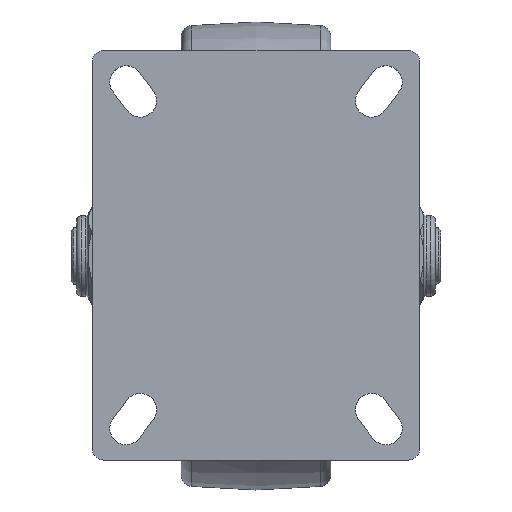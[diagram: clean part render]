
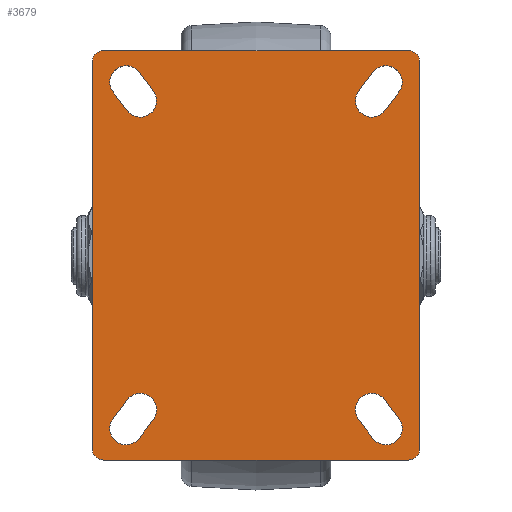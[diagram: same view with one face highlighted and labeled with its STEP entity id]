
A CAD part, top view. The second image highlights one B-rep face of the part: STEP entity #3679.
In plain terms, the highlighted planar face has unit normal (0, 0, 1).
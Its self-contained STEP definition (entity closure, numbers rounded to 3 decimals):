
#3057=CARTESIAN_POINT('',(-775.501,-300.79,109.943));
#3058=VERTEX_POINT('',#3057);
#3059=CARTESIAN_POINT('',(-905.501,-300.79,109.943));
#3060=VERTEX_POINT('',#3059);
#3061=CARTESIAN_POINT('',(-775.501,-300.79,109.943));
#3062=DIRECTION('',(-1.0,0.0,0.0));
#3063=VECTOR('',#3062,130.);
#3064=LINE('',#3061,#3063);
#3065=EDGE_CURVE('',#3058,#3060,#3064,.T.);
#3088=CARTESIAN_POINT('',(-910.501,-295.79,109.943));
#3089=VERTEX_POINT('',#3088);
#3090=CARTESIAN_POINT('',(-905.501,-295.79,109.943));
#3091=DIRECTION('',(0.0,0.0,-1.0));
#3092=DIRECTION('',(1.0,0.0,0.0));
#3093=AXIS2_PLACEMENT_3D('',#3090,#3091,#3092);
#3094=CIRCLE('',#3093,5.0);
#3095=EDGE_CURVE('',#3060,#3089,#3094,.T.);
#3113=CARTESIAN_POINT('',(-910.501,-130.79,109.943));
#3114=VERTEX_POINT('',#3113);
#3115=CARTESIAN_POINT('',(-910.501,-295.79,109.943));
#3116=DIRECTION('',(0.0,1.0,0.0));
#3117=VECTOR('',#3116,165.);
#3118=LINE('',#3115,#3117);
#3119=EDGE_CURVE('',#3089,#3114,#3118,.T.);
#3137=CARTESIAN_POINT('',(-905.501,-125.79,109.943));
#3138=VERTEX_POINT('',#3137);
#3139=CARTESIAN_POINT('',(-905.501,-130.79,109.943));
#3140=DIRECTION('',(0.0,0.0,-1.0));
#3141=DIRECTION('',(1.0,0.0,0.0));
#3142=AXIS2_PLACEMENT_3D('',#3139,#3140,#3141);
#3143=CIRCLE('',#3142,5.0);
#3144=EDGE_CURVE('',#3114,#3138,#3143,.T.);
#3162=CARTESIAN_POINT('',(-775.501,-125.79,109.943));
#3163=VERTEX_POINT('',#3162);
#3164=CARTESIAN_POINT('',(-905.501,-125.79,109.943));
#3165=DIRECTION('',(1.0,0.0,0.0));
#3166=VECTOR('',#3165,130.0);
#3167=LINE('',#3164,#3166);
#3168=EDGE_CURVE('',#3138,#3163,#3167,.T.);
#3186=CARTESIAN_POINT('',(-770.501,-130.79,109.943));
#3187=VERTEX_POINT('',#3186);
#3188=CARTESIAN_POINT('',(-775.501,-130.79,109.943));
#3189=DIRECTION('',(0.0,0.0,-1.0));
#3190=DIRECTION('',(1.0,0.0,0.0));
#3191=AXIS2_PLACEMENT_3D('',#3188,#3189,#3190);
#3192=CIRCLE('',#3191,5.0);
#3193=EDGE_CURVE('',#3163,#3187,#3192,.T.);
#3211=CARTESIAN_POINT('',(-770.501,-295.79,109.943));
#3212=VERTEX_POINT('',#3211);
#3213=CARTESIAN_POINT('',(-770.501,-130.79,109.943));
#3214=DIRECTION('',(0.0,-1.0,0.0));
#3215=VECTOR('',#3214,165.);
#3216=LINE('',#3213,#3215);
#3217=EDGE_CURVE('',#3187,#3212,#3216,.T.);
#3235=CARTESIAN_POINT('',(-775.501,-295.79,109.943));
#3236=DIRECTION('',(0.0,0.0,-1.0));
#3237=DIRECTION('',(1.0,0.0,0.0));
#3238=AXIS2_PLACEMENT_3D('',#3235,#3236,#3237);
#3239=CIRCLE('',#3238,5.0);
#3240=EDGE_CURVE('',#3212,#3058,#3239,.T.);
#3253=CARTESIAN_POINT('',(-901.601,-283.09,109.943));
#3254=VERTEX_POINT('',#3253);
#3255=CARTESIAN_POINT('',(-890.401,-291.49,109.943));
#3256=VERTEX_POINT('',#3255);
#3257=CARTESIAN_POINT('',(-896.001,-287.29,109.943));
#3258=DIRECTION('',(0.0,0.0,1.0));
#3259=DIRECTION('',(1.0,0.0,0.0));
#3260=AXIS2_PLACEMENT_3D('',#3257,#3258,#3259);
#3261=CIRCLE('',#3260,7.);
#3262=EDGE_CURVE('',#3254,#3256,#3261,.T.);
#3285=CARTESIAN_POINT('',(-884.401,-283.49,109.943));
#3286=VERTEX_POINT('',#3285);
#3287=CARTESIAN_POINT('',(-890.401,-291.49,109.943));
#3288=DIRECTION('',(0.6,0.8,0.0));
#3289=VECTOR('',#3288,10.);
#3290=LINE('',#3287,#3289);
#3291=EDGE_CURVE('',#3256,#3286,#3290,.T.);
#3309=CARTESIAN_POINT('',(-895.601,-275.09,109.943));
#3310=VERTEX_POINT('',#3309);
#3311=CARTESIAN_POINT('',(-890.001,-279.29,109.943));
#3312=DIRECTION('',(0.0,0.0,1.0));
#3313=DIRECTION('',(1.0,0.0,0.0));
#3314=AXIS2_PLACEMENT_3D('',#3311,#3312,#3313);
#3315=CIRCLE('',#3314,7.);
#3316=EDGE_CURVE('',#3286,#3310,#3315,.T.);
#3334=CARTESIAN_POINT('',(-895.601,-275.09,109.943));
#3335=DIRECTION('',(-0.6,-0.8,0.0));
#3336=VECTOR('',#3335,10.);
#3337=LINE('',#3334,#3336);
#3338=EDGE_CURVE('',#3310,#3254,#3337,.T.);
#3351=CARTESIAN_POINT('',(-790.601,-291.49,109.943));
#3352=VERTEX_POINT('',#3351);
#3353=CARTESIAN_POINT('',(-779.401,-283.09,109.943));
#3354=VERTEX_POINT('',#3353);
#3355=CARTESIAN_POINT('',(-785.001,-287.29,109.943));
#3356=DIRECTION('',(0.0,0.0,1.0));
#3357=DIRECTION('',(1.0,0.0,0.0));
#3358=AXIS2_PLACEMENT_3D('',#3355,#3356,#3357);
#3359=CIRCLE('',#3358,7.);
#3360=EDGE_CURVE('',#3352,#3354,#3359,.T.);
#3383=CARTESIAN_POINT('',(-785.401,-275.09,109.943));
#3384=VERTEX_POINT('',#3383);
#3385=CARTESIAN_POINT('',(-779.401,-283.09,109.943));
#3386=DIRECTION('',(-0.6,0.8,0.0));
#3387=VECTOR('',#3386,10.);
#3388=LINE('',#3385,#3387);
#3389=EDGE_CURVE('',#3354,#3384,#3388,.T.);
#3407=CARTESIAN_POINT('',(-796.601,-283.49,109.943));
#3408=VERTEX_POINT('',#3407);
#3409=CARTESIAN_POINT('',(-791.001,-279.29,109.943));
#3410=DIRECTION('',(0.0,0.0,1.0));
#3411=DIRECTION('',(1.0,0.0,0.0));
#3412=AXIS2_PLACEMENT_3D('',#3409,#3410,#3411);
#3413=CIRCLE('',#3412,7.);
#3414=EDGE_CURVE('',#3384,#3408,#3413,.T.);
#3432=CARTESIAN_POINT('',(-796.601,-283.49,109.943));
#3433=DIRECTION('',(0.6,-0.8,0.0));
#3434=VECTOR('',#3433,10.);
#3435=LINE('',#3432,#3434);
#3436=EDGE_CURVE('',#3408,#3352,#3435,.T.);
#3449=CARTESIAN_POINT('',(-785.401,-151.49,109.943));
#3450=VERTEX_POINT('',#3449);
#3451=CARTESIAN_POINT('',(-779.401,-143.49,109.943));
#3452=VERTEX_POINT('',#3451);
#3453=CARTESIAN_POINT('',(-785.401,-151.49,109.943));
#3454=DIRECTION('',(0.6,0.8,0.0));
#3455=VECTOR('',#3454,10.);
#3456=LINE('',#3453,#3455);
#3457=EDGE_CURVE('',#3450,#3452,#3456,.T.);
#3480=CARTESIAN_POINT('',(-790.601,-135.09,109.943));
#3481=VERTEX_POINT('',#3480);
#3482=CARTESIAN_POINT('',(-785.001,-139.29,109.943));
#3483=DIRECTION('',(0.0,0.0,1.0));
#3484=DIRECTION('',(1.0,0.0,0.0));
#3485=AXIS2_PLACEMENT_3D('',#3482,#3483,#3484);
#3486=CIRCLE('',#3485,7.);
#3487=EDGE_CURVE('',#3452,#3481,#3486,.T.);
#3505=CARTESIAN_POINT('',(-796.601,-143.09,109.943));
#3506=VERTEX_POINT('',#3505);
#3507=CARTESIAN_POINT('',(-790.601,-135.09,109.943));
#3508=DIRECTION('',(-0.6,-0.8,0.0));
#3509=VECTOR('',#3508,10.0);
#3510=LINE('',#3507,#3509);
#3511=EDGE_CURVE('',#3481,#3506,#3510,.T.);
#3529=CARTESIAN_POINT('',(-791.001,-147.29,109.943));
#3530=DIRECTION('',(0.0,0.0,1.0));
#3531=DIRECTION('',(1.0,0.0,0.0));
#3532=AXIS2_PLACEMENT_3D('',#3529,#3530,#3531);
#3533=CIRCLE('',#3532,7.);
#3534=EDGE_CURVE('',#3506,#3450,#3533,.T.);
#3547=CARTESIAN_POINT('',(-890.401,-135.09,109.943));
#3548=VERTEX_POINT('',#3547);
#3549=CARTESIAN_POINT('',(-901.601,-143.49,109.943));
#3550=VERTEX_POINT('',#3549);
#3551=CARTESIAN_POINT('',(-896.001,-139.29,109.943));
#3552=DIRECTION('',(0.0,0.0,1.0));
#3553=DIRECTION('',(1.0,0.0,0.0));
#3554=AXIS2_PLACEMENT_3D('',#3551,#3552,#3553);
#3555=CIRCLE('',#3554,7.);
#3556=EDGE_CURVE('',#3548,#3550,#3555,.T.);
#3579=CARTESIAN_POINT('',(-895.601,-151.49,109.943));
#3580=VERTEX_POINT('',#3579);
#3581=CARTESIAN_POINT('',(-901.601,-143.49,109.943));
#3582=DIRECTION('',(0.6,-0.8,0.0));
#3583=VECTOR('',#3582,10.);
#3584=LINE('',#3581,#3583);
#3585=EDGE_CURVE('',#3550,#3580,#3584,.T.);
#3603=CARTESIAN_POINT('',(-884.401,-143.09,109.943));
#3604=VERTEX_POINT('',#3603);
#3605=CARTESIAN_POINT('',(-890.001,-147.29,109.943));
#3606=DIRECTION('',(0.0,0.0,1.0));
#3607=DIRECTION('',(1.0,0.0,0.0));
#3608=AXIS2_PLACEMENT_3D('',#3605,#3606,#3607);
#3609=CIRCLE('',#3608,7.);
#3610=EDGE_CURVE('',#3580,#3604,#3609,.T.);
#3628=CARTESIAN_POINT('',(-884.401,-143.09,109.943));
#3629=DIRECTION('',(-0.6,0.8,0.0));
#3630=VECTOR('',#3629,10.);
#3631=LINE('',#3628,#3630);
#3632=EDGE_CURVE('',#3604,#3548,#3631,.T.);
#3640=CARTESIAN_POINT('',(-840.501,-213.29,109.943));
#3641=DIRECTION('',(0.0,0.0,1.0));
#3642=DIRECTION('',(1.0,0.0,0.0));
#3643=AXIS2_PLACEMENT_3D('',#3640,#3641,#3642);
#3644=PLANE('',#3643);
#3645=ORIENTED_EDGE('',*,*,#3065,.F.);
#3646=ORIENTED_EDGE('',*,*,#3240,.F.);
#3647=ORIENTED_EDGE('',*,*,#3217,.F.);
#3648=ORIENTED_EDGE('',*,*,#3193,.F.);
#3649=ORIENTED_EDGE('',*,*,#3168,.F.);
#3650=ORIENTED_EDGE('',*,*,#3144,.F.);
#3651=ORIENTED_EDGE('',*,*,#3119,.F.);
#3652=ORIENTED_EDGE('',*,*,#3095,.F.);
#3653=EDGE_LOOP('',(#3645,#3646,#3647,#3648,#3649,#3650,#3651,#3652));
#3654=FACE_OUTER_BOUND('',#3653,.T.);
#3655=ORIENTED_EDGE('',*,*,#3556,.F.);
#3656=ORIENTED_EDGE('',*,*,#3632,.F.);
#3657=ORIENTED_EDGE('',*,*,#3610,.F.);
#3658=ORIENTED_EDGE('',*,*,#3585,.F.);
#3659=EDGE_LOOP('',(#3655,#3656,#3657,#3658));
#3660=FACE_BOUND('',#3659,.T.);
#3661=ORIENTED_EDGE('',*,*,#3457,.F.);
#3662=ORIENTED_EDGE('',*,*,#3534,.F.);
#3663=ORIENTED_EDGE('',*,*,#3511,.F.);
#3664=ORIENTED_EDGE('',*,*,#3487,.F.);
#3665=EDGE_LOOP('',(#3661,#3662,#3663,#3664));
#3666=FACE_BOUND('',#3665,.T.);
#3667=ORIENTED_EDGE('',*,*,#3360,.F.);
#3668=ORIENTED_EDGE('',*,*,#3436,.F.);
#3669=ORIENTED_EDGE('',*,*,#3414,.F.);
#3670=ORIENTED_EDGE('',*,*,#3389,.F.);
#3671=EDGE_LOOP('',(#3667,#3668,#3669,#3670));
#3672=FACE_BOUND('',#3671,.T.);
#3673=ORIENTED_EDGE('',*,*,#3262,.F.);
#3674=ORIENTED_EDGE('',*,*,#3338,.F.);
#3675=ORIENTED_EDGE('',*,*,#3316,.F.);
#3676=ORIENTED_EDGE('',*,*,#3291,.F.);
#3677=EDGE_LOOP('',(#3673,#3674,#3675,#3676));
#3678=FACE_BOUND('',#3677,.T.);
#3679=ADVANCED_FACE('',(#3654,#3660,#3666,#3672,#3678),#3644,.T.);
